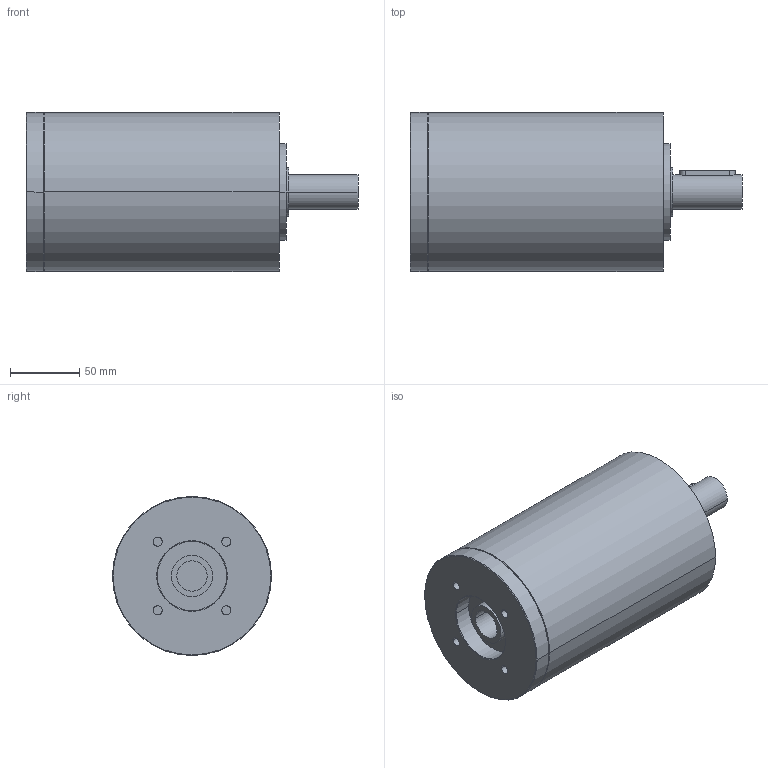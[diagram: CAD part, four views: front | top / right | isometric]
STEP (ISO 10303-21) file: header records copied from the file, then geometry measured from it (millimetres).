
FILE_DESCRIPTION(('CoCreate Modeling STEP Export'),'2;1');
FILE_NAME('GPR125_ig-9-12-16-20-28-35_25_B14_22_P14.stp','2014-08-26T14:11:04',(''),(''),'CoCreate Modeling STEP processor for AP214 (Solid Model)','CoCreate Modeling 16.00C 25-Feb-2009 (C) Parametric Technology GmbH','');
FILE_SCHEMA(('AUTOMOTIVE_DESIGN { 1 0 10303 214 1 1 1 1 }'));
Length unit declared in the file: millimetre
Products named in the file (2): GPR125_ig-9-12-16-20-28-35_25_B14_22_P14
Assembly tree (1 placements, depth 2):
  GPR125_ig-9-12-16-20-28-35_25_B14_22_P14
    GPR125_ig-9-12-16-20-28-35_25_B14_22_P14
Bounding box: 240 x 115 x 115 mm (x, y, z)
Volume: 1897214.2 mm3; surface area: 103518.7 mm2
Topology: 1 solids, 1 shells, 78 faces, 190 edges, 132 vertices
Faces by surface type: cylinder 44, plane 24, cone 10
Entity records: 1945 total; most frequent: ORIENTED_EDGE 376, CARTESIAN_POINT 358, DIRECTION 256, EDGE_CURVE 188, VERTEX_POINT 132, AXIS2_PLACEMENT_3D 98, EDGE_LOOP 98, FACE_OUTER_BOUND 78
